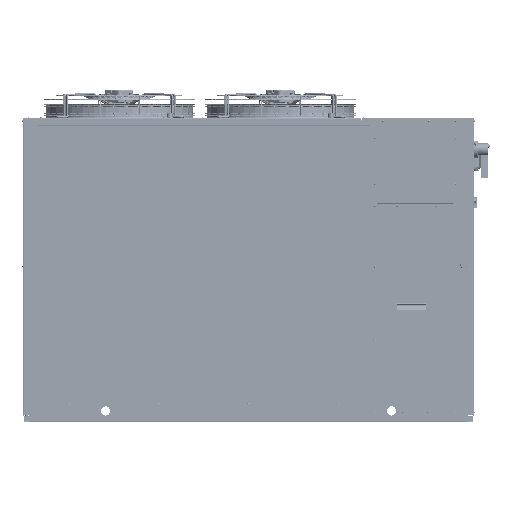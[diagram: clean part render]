
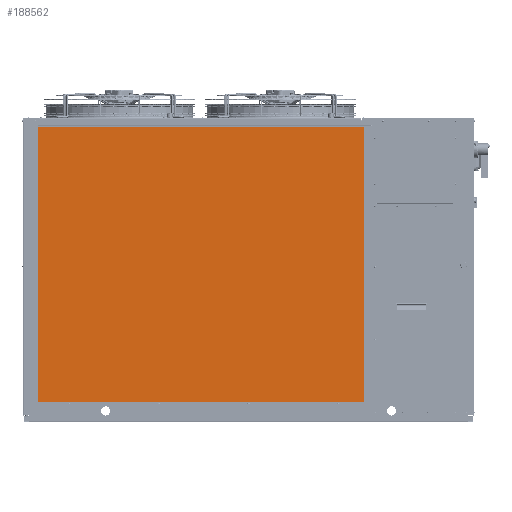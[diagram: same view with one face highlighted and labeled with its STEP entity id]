
A CAD part, left-side view. The second image highlights one B-rep face of the part: STEP entity #188562.
In plain terms, the highlighted planar face has unit normal (-1, 0, 0).
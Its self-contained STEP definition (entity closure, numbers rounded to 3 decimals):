
#30490 = DIRECTION ( 'NONE',  ( 1., 0., 0. ) ) ;
#41097 = ORIENTED_EDGE ( 'NONE', *, *, #907087, .F. ) ;
#117298 = LINE ( 'NONE', #384389, #817002 ) ;
#133538 = CARTESIAN_POINT ( 'NONE',  ( -12.5, 0., -598. ) ) ;
#138896 = LINE ( 'NONE', #993008, #179571 ) ;
#179571 = VECTOR ( 'NONE', #555936, 1000. ) ;
#188562 = ADVANCED_FACE ( 'NONE', ( #377997 ), #636461, .F. ) ;
#199270 = DIRECTION ( 'NONE',  ( 0., 0., -1. ) ) ;
#257849 = DIRECTION ( 'NONE',  ( 0., 0., 1. ) ) ;
#288544 = AXIS2_PLACEMENT_3D ( 'NONE', #724577, #30490, #199270 ) ;
#324887 = CARTESIAN_POINT ( 'NONE',  ( -12.5, 9.987, 598. ) ) ;
#327163 = CARTESIAN_POINT ( 'NONE',  ( -12.5, 1453.013, 0. ) ) ;
#377997 = FACE_OUTER_BOUND ( 'NONE', #939130, .T. ) ;
#384389 = CARTESIAN_POINT ( 'NONE',  ( -12.5, 9.987, -602. ) ) ;
#390927 = EDGE_CURVE ( 'NONE', #489098, #595410, #496775, .T. ) ;
#441677 = VECTOR ( 'NONE', #578315, 1000. ) ;
#489098 = VERTEX_POINT ( 'NONE', #665033 ) ;
#496775 = LINE ( 'NONE', #133538, #441677 ) ;
#550782 = VERTEX_POINT ( 'NONE', #324887 ) ;
#555936 = DIRECTION ( 'NONE',  ( 0., -1., 0. ) ) ;
#567295 = LINE ( 'NONE', #327163, #635503 ) ;
#578315 = DIRECTION ( 'NONE',  ( 0., 1., 0. ) ) ;
#581416 = EDGE_CURVE ( 'NONE', #595410, #1102238, #567295, .T. ) ;
#586479 = ORIENTED_EDGE ( 'NONE', *, *, #581416, .F. ) ;
#595410 = VERTEX_POINT ( 'NONE', #1115765 ) ;
#635503 = VECTOR ( 'NONE', #257849, 1000. ) ;
#636461 = PLANE ( 'NONE',  #288544 ) ;
#652708 = DIRECTION ( 'NONE',  ( 0., 0., -1. ) ) ;
#665033 = CARTESIAN_POINT ( 'NONE',  ( -12.5, 9.987, -598. ) ) ;
#724577 = CARTESIAN_POINT ( 'NONE',  ( -12.5, 0., 0. ) ) ;
#817002 = VECTOR ( 'NONE', #652708, 1000. ) ;
#883309 = CARTESIAN_POINT ( 'NONE',  ( -12.5, 1453.013, 598. ) ) ;
#907087 = EDGE_CURVE ( 'NONE', #1102238, #550782, #138896, .T. ) ;
#939130 = EDGE_LOOP ( 'NONE', ( #41097, #586479, #1095606, #1081937 ) ) ;
#993008 = CARTESIAN_POINT ( 'NONE',  ( -12.5, 0., 598. ) ) ;
#1081937 = ORIENTED_EDGE ( 'NONE', *, *, #1111517, .F. ) ;
#1095606 = ORIENTED_EDGE ( 'NONE', *, *, #390927, .F. ) ;
#1102238 = VERTEX_POINT ( 'NONE', #883309 ) ;
#1111517 = EDGE_CURVE ( 'NONE', #550782, #489098, #117298, .T. ) ;
#1115765 = CARTESIAN_POINT ( 'NONE',  ( -12.5, 1453.013, -598. ) ) ;
